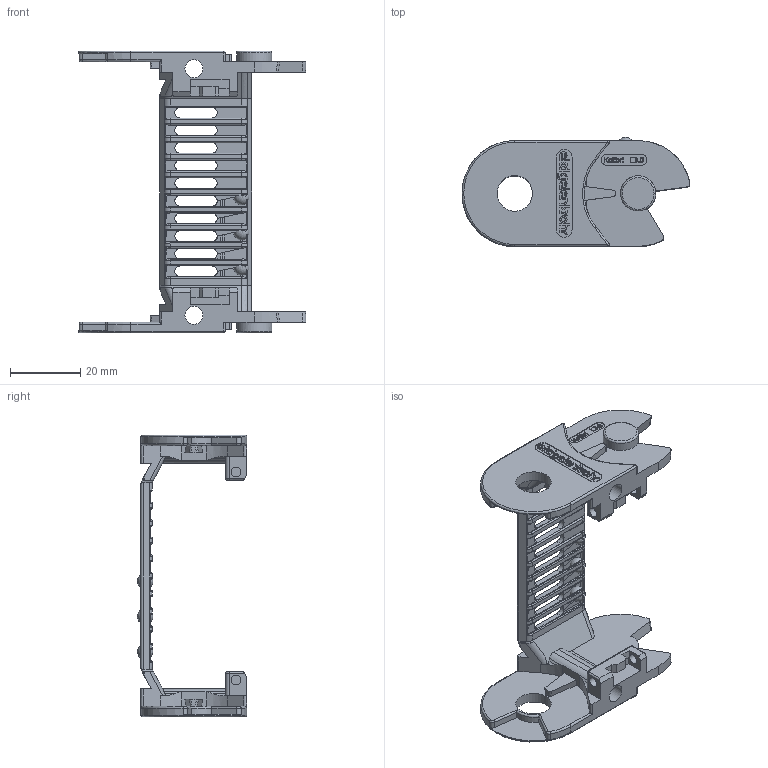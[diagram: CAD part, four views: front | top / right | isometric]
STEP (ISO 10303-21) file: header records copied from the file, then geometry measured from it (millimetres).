
FILE_DESCRIPTION((''),'2;1');
FILE_NAME('P:\technik\3D\STEP\KOLIBRI\KOLIBRI_30_080_0\Kol 30_080_0 Lasche.stp','2013-02-28T11:26:43',('Schratter'),(''),'Autodesk Inventor 2013','Autodesk Inventor 2013','');
FILE_SCHEMA(('AUTOMOTIVE_DESIGN { 1 0 10303 214 1 1 1 1 }'));
Length unit declared in the file: millimetre
Products named in the file (1): Kol 30_080_0 Lasche
Bounding box: 64.71 x 31 x 80 mm (x, y, z)
Volume: 15264.5 mm3; surface area: 13907.5 mm2
Topology: 1 solids, 1 shells, 768 faces, 2092 edges, 1343 vertices
Faces by surface type: plane 384, cylinder 181, bspline 104, torus 60, sphere 27, cone 12
Full cylindrical faces by diameter (mm): 1.166 x1, 2.048 x1, 2.8 x4, 5.1 x2, 10 x2, 10.1 x2
Entity records: 28512 total; most frequent: CARTESIAN_POINT 9533, ORIENTED_EDGE 4116, DIRECTION 3710, EDGE_CURVE 2058, VERTEX_POINT 1332, AXIS2_PLACEMENT_3D 1247, VECTOR 1216, LINE 1216
